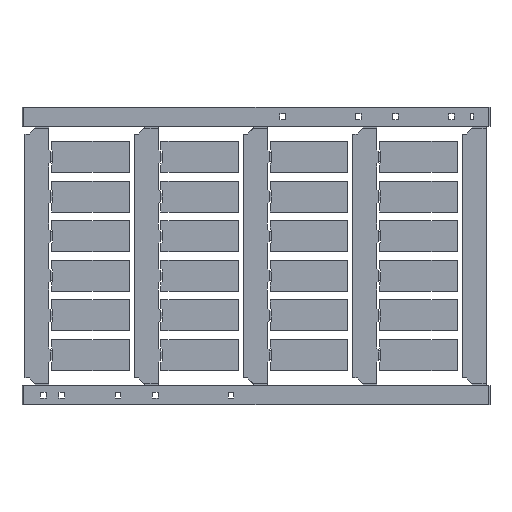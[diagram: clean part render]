
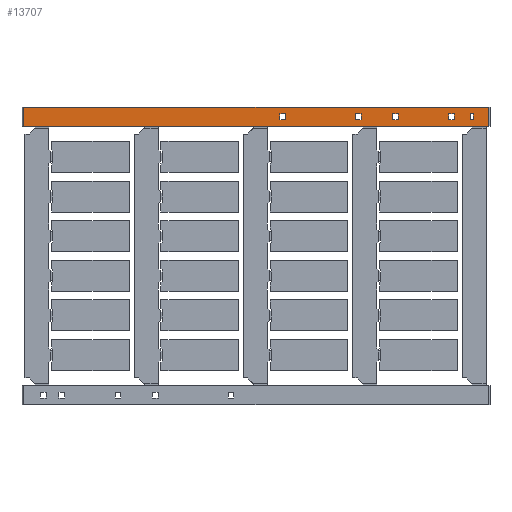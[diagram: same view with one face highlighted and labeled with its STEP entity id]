
A CAD part, top view. The second image highlights one B-rep face of the part: STEP entity #13707.
In plain terms, the highlighted planar face has unit normal (0, 0, 1).
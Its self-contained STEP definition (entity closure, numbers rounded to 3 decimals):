
#982=DIRECTION('',(-1.,0.,0.));
#983=VECTOR('',#982,0.8);
#984=CARTESIAN_POINT('',(55.375,36.225,1.3));
#985=LINE('',#984,#983);
#989=DIRECTION('',(0.,-1.,0.));
#990=VECTOR('',#989,1.5);
#991=CARTESIAN_POINT('',(54.575,36.225,1.3));
#992=LINE('',#991,#990);
#996=DIRECTION('',(1.,0.,0.));
#997=VECTOR('',#996,0.8);
#998=CARTESIAN_POINT('',(54.575,34.725,1.3));
#999=LINE('',#998,#997);
#1003=DIRECTION('',(0.,1.,0.));
#1004=VECTOR('',#1003,1.5);
#1005=CARTESIAN_POINT('',(55.375,34.725,1.3));
#1006=LINE('',#1005,#1004);
#1010=DIRECTION('',(-1.,0.,0.));
#1011=VECTOR('',#1010,1.5);
#1012=CARTESIAN_POINT('',(50.575,36.225,1.3));
#1013=LINE('',#1012,#1011);
#1017=DIRECTION('',(0.,-1.,0.));
#1018=VECTOR('',#1017,1.5);
#1019=CARTESIAN_POINT('',(49.075,36.225,1.3));
#1020=LINE('',#1019,#1018);
#1024=DIRECTION('',(1.,0.,0.));
#1025=VECTOR('',#1024,1.5);
#1026=CARTESIAN_POINT('',(49.075,34.725,1.3));
#1027=LINE('',#1026,#1025);
#1031=DIRECTION('',(0.,1.,0.));
#1032=VECTOR('',#1031,1.5);
#1033=CARTESIAN_POINT('',(50.575,34.725,1.3));
#1034=LINE('',#1033,#1032);
#1038=DIRECTION('',(-1.,0.,0.));
#1039=VECTOR('',#1038,1.5);
#1040=CARTESIAN_POINT('',(36.275,36.225,1.3));
#1041=LINE('',#1040,#1039);
#1045=DIRECTION('',(0.,-1.,0.));
#1046=VECTOR('',#1045,1.5);
#1047=CARTESIAN_POINT('',(34.775,36.225,1.3));
#1048=LINE('',#1047,#1046);
#1052=DIRECTION('',(1.,0.,0.));
#1053=VECTOR('',#1052,1.5);
#1054=CARTESIAN_POINT('',(34.775,34.725,1.3));
#1055=LINE('',#1054,#1053);
#1059=DIRECTION('',(0.,1.,0.));
#1060=VECTOR('',#1059,1.5);
#1061=CARTESIAN_POINT('',(36.275,34.725,1.3));
#1062=LINE('',#1061,#1060);
#1066=DIRECTION('',(-1.,0.,0.));
#1067=VECTOR('',#1066,1.5);
#1068=CARTESIAN_POINT('',(26.775,36.225,1.3));
#1069=LINE('',#1068,#1067);
#1073=DIRECTION('',(0.,-1.,0.));
#1074=VECTOR('',#1073,1.5);
#1075=CARTESIAN_POINT('',(25.275,36.225,1.3));
#1076=LINE('',#1075,#1074);
#1080=DIRECTION('',(1.,0.,0.));
#1081=VECTOR('',#1080,1.5);
#1082=CARTESIAN_POINT('',(25.275,34.725,1.3));
#1083=LINE('',#1082,#1081);
#1087=DIRECTION('',(0.,1.,0.));
#1088=VECTOR('',#1087,1.5);
#1089=CARTESIAN_POINT('',(26.775,34.725,1.3));
#1090=LINE('',#1089,#1088);
#1094=DIRECTION('',(-1.,0.,0.));
#1095=VECTOR('',#1094,1.5);
#1096=CARTESIAN_POINT('',(7.575,36.225,1.3));
#1097=LINE('',#1096,#1095);
#1101=DIRECTION('',(0.,-1.,0.));
#1102=VECTOR('',#1101,1.5);
#1103=CARTESIAN_POINT('',(6.075,36.225,1.3));
#1104=LINE('',#1103,#1102);
#1108=DIRECTION('',(1.,0.,0.));
#1109=VECTOR('',#1108,1.5);
#1110=CARTESIAN_POINT('',(6.075,34.725,1.3));
#1111=LINE('',#1110,#1109);
#1115=DIRECTION('',(0.,1.,0.));
#1116=VECTOR('',#1115,1.5);
#1117=CARTESIAN_POINT('',(7.575,34.725,1.3));
#1118=LINE('',#1117,#1116);
#1262=DIRECTION('',(0.,1.,0.));
#1263=VECTOR('',#1262,4.85);
#1264=CARTESIAN_POINT('',(59.125,33.05,1.3));
#1265=LINE('',#1264,#1263);
#1269=DIRECTION('',(0.,-1.,0.));
#1270=VECTOR('',#1269,4.85);
#1271=CARTESIAN_POINT('',(-59.125,37.9,1.3));
#1272=LINE('',#1271,#1270);
#1276=DIRECTION('',(-1.,0.,0.));
#1277=VECTOR('',#1276,118.25);
#1278=CARTESIAN_POINT('',(59.125,37.9,1.3));
#1279=LINE('',#1278,#1277);
#2144=DIRECTION('',(1.,0.,0.));
#2145=VECTOR('',#2144,118.25);
#2146=CARTESIAN_POINT('',(-59.125,33.05,1.3));
#2147=LINE('',#2146,#2145);
#12810=CARTESIAN_POINT('',(55.375,36.225,1.3));
#12811=CARTESIAN_POINT('',(54.575,36.225,1.3));
#12812=VERTEX_POINT('',#12810);
#12813=VERTEX_POINT('',#12811);
#12814=CARTESIAN_POINT('',(54.575,34.725,1.3));
#12815=VERTEX_POINT('',#12814);
#12816=CARTESIAN_POINT('',(55.375,34.725,1.3));
#12817=VERTEX_POINT('',#12816);
#12850=CARTESIAN_POINT('',(50.575,36.225,1.3));
#12851=CARTESIAN_POINT('',(49.075,36.225,1.3));
#12852=VERTEX_POINT('',#12850);
#12853=VERTEX_POINT('',#12851);
#12854=CARTESIAN_POINT('',(49.075,34.725,1.3));
#12855=VERTEX_POINT('',#12854);
#12856=CARTESIAN_POINT('',(50.575,34.725,1.3));
#12857=VERTEX_POINT('',#12856);
#12858=CARTESIAN_POINT('',(36.275,36.225,1.3));
#12859=CARTESIAN_POINT('',(34.775,36.225,1.3));
#12860=VERTEX_POINT('',#12858);
#12861=VERTEX_POINT('',#12859);
#12862=CARTESIAN_POINT('',(34.775,34.725,1.3));
#12863=VERTEX_POINT('',#12862);
#12864=CARTESIAN_POINT('',(36.275,34.725,1.3));
#12865=VERTEX_POINT('',#12864);
#12866=CARTESIAN_POINT('',(26.775,36.225,1.3));
#12867=CARTESIAN_POINT('',(25.275,36.225,1.3));
#12868=VERTEX_POINT('',#12866);
#12869=VERTEX_POINT('',#12867);
#12870=CARTESIAN_POINT('',(25.275,34.725,1.3));
#12871=VERTEX_POINT('',#12870);
#12872=CARTESIAN_POINT('',(26.775,34.725,1.3));
#12873=VERTEX_POINT('',#12872);
#12874=CARTESIAN_POINT('',(7.575,36.225,1.3));
#12875=CARTESIAN_POINT('',(6.075,36.225,1.3));
#12876=VERTEX_POINT('',#12874);
#12877=VERTEX_POINT('',#12875);
#12878=CARTESIAN_POINT('',(6.075,34.725,1.3));
#12879=VERTEX_POINT('',#12878);
#12880=CARTESIAN_POINT('',(7.575,34.725,1.3));
#12881=VERTEX_POINT('',#12880);
#13274=CARTESIAN_POINT('',(59.125,37.9,1.3));
#13276=VERTEX_POINT('',#13274);
#13280=CARTESIAN_POINT('',(59.125,33.05,1.3));
#13281=VERTEX_POINT('',#13280);
#13290=CARTESIAN_POINT('',(-59.125,33.05,1.3));
#13292=VERTEX_POINT('',#13290);
#13296=CARTESIAN_POINT('',(-59.125,37.9,1.3));
#13297=VERTEX_POINT('',#13296);
#13642=CARTESIAN_POINT('',(0.,0.,1.3));
#13643=DIRECTION('',(0.,0.,1.));
#13644=DIRECTION('',(1.,0.,0.));
#13645=AXIS2_PLACEMENT_3D('',#13642,#13643,#13644);
#13646=PLANE('',#13645);
#13648=ORIENTED_EDGE('',*,*,#13647,.F.);
#13650=ORIENTED_EDGE('',*,*,#13649,.F.);
#13652=ORIENTED_EDGE('',*,*,#13651,.F.);
#13654=ORIENTED_EDGE('',*,*,#13653,.F.);
#13655=EDGE_LOOP('',(#13648,#13650,#13652,#13654));
#13656=FACE_OUTER_BOUND('',#13655,.F.);
#13658=ORIENTED_EDGE('',*,*,#13657,.T.);
#13660=ORIENTED_EDGE('',*,*,#13659,.T.);
#13662=ORIENTED_EDGE('',*,*,#13661,.T.);
#13664=ORIENTED_EDGE('',*,*,#13663,.T.);
#13665=EDGE_LOOP('',(#13658,#13660,#13662,#13664));
#13666=FACE_BOUND('',#13665,.F.);
#13668=ORIENTED_EDGE('',*,*,#13667,.T.);
#13670=ORIENTED_EDGE('',*,*,#13669,.T.);
#13672=ORIENTED_EDGE('',*,*,#13671,.T.);
#13674=ORIENTED_EDGE('',*,*,#13673,.T.);
#13675=EDGE_LOOP('',(#13668,#13670,#13672,#13674));
#13676=FACE_BOUND('',#13675,.F.);
#13678=ORIENTED_EDGE('',*,*,#13677,.T.);
#13680=ORIENTED_EDGE('',*,*,#13679,.T.);
#13682=ORIENTED_EDGE('',*,*,#13681,.T.);
#13684=ORIENTED_EDGE('',*,*,#13683,.T.);
#13685=EDGE_LOOP('',(#13678,#13680,#13682,#13684));
#13686=FACE_BOUND('',#13685,.F.);
#13688=ORIENTED_EDGE('',*,*,#13687,.T.);
#13690=ORIENTED_EDGE('',*,*,#13689,.T.);
#13692=ORIENTED_EDGE('',*,*,#13691,.T.);
#13694=ORIENTED_EDGE('',*,*,#13693,.T.);
#13695=EDGE_LOOP('',(#13688,#13690,#13692,#13694));
#13696=FACE_BOUND('',#13695,.F.);
#13698=ORIENTED_EDGE('',*,*,#13697,.T.);
#13700=ORIENTED_EDGE('',*,*,#13699,.T.);
#13702=ORIENTED_EDGE('',*,*,#13701,.T.);
#13704=ORIENTED_EDGE('',*,*,#13703,.T.);
#13705=EDGE_LOOP('',(#13698,#13700,#13702,#13704));
#13706=FACE_BOUND('',#13705,.F.);
#13707=ADVANCED_FACE('',(#13656,#13666,#13676,#13686,#13696,#13706),#13646,.T.);
#13647=EDGE_CURVE('',#13281,#13276,#1265,.T.);
#13649=EDGE_CURVE('',#13292,#13281,#2147,.T.);
#13651=EDGE_CURVE('',#13297,#13292,#1272,.T.);
#13653=EDGE_CURVE('',#13276,#13297,#1279,.T.);
#13657=EDGE_CURVE('',#12812,#12813,#985,.T.);
#13659=EDGE_CURVE('',#12813,#12815,#992,.T.);
#13661=EDGE_CURVE('',#12815,#12817,#999,.T.);
#13663=EDGE_CURVE('',#12817,#12812,#1006,.T.);
#13667=EDGE_CURVE('',#12852,#12853,#1013,.T.);
#13669=EDGE_CURVE('',#12853,#12855,#1020,.T.);
#13671=EDGE_CURVE('',#12855,#12857,#1027,.T.);
#13673=EDGE_CURVE('',#12857,#12852,#1034,.T.);
#13677=EDGE_CURVE('',#12860,#12861,#1041,.T.);
#13679=EDGE_CURVE('',#12861,#12863,#1048,.T.);
#13681=EDGE_CURVE('',#12863,#12865,#1055,.T.);
#13683=EDGE_CURVE('',#12865,#12860,#1062,.T.);
#13687=EDGE_CURVE('',#12868,#12869,#1069,.T.);
#13689=EDGE_CURVE('',#12869,#12871,#1076,.T.);
#13691=EDGE_CURVE('',#12871,#12873,#1083,.T.);
#13693=EDGE_CURVE('',#12873,#12868,#1090,.T.);
#13697=EDGE_CURVE('',#12876,#12877,#1097,.T.);
#13699=EDGE_CURVE('',#12877,#12879,#1104,.T.);
#13701=EDGE_CURVE('',#12879,#12881,#1111,.T.);
#13703=EDGE_CURVE('',#12881,#12876,#1118,.T.);
